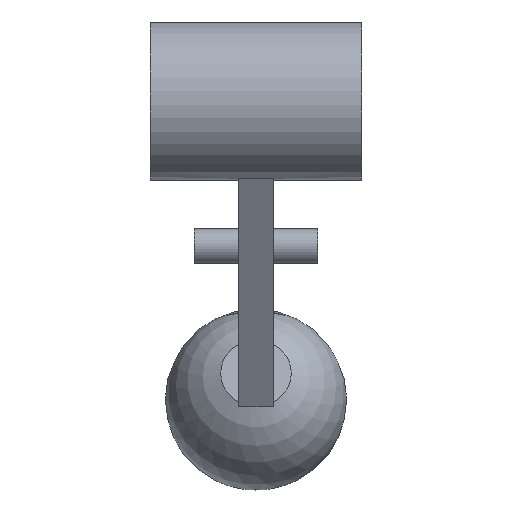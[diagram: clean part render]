
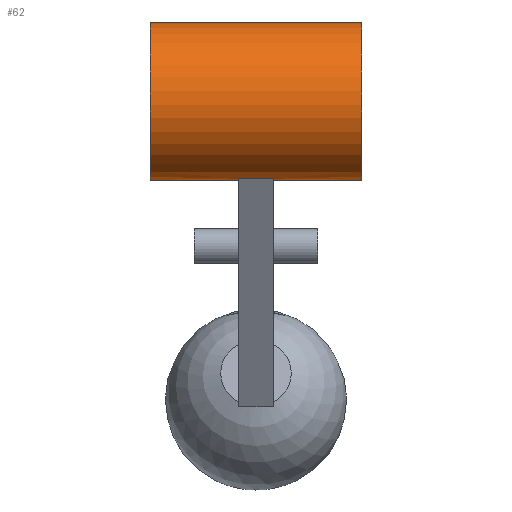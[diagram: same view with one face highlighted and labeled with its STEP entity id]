
A CAD part, front view. The second image highlights one B-rep face of the part: STEP entity #62.
In plain terms, the highlighted cylindrical face has radius 18 mm (diameter 36 mm), a full revolution.
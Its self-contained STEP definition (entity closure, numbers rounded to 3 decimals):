
#62=ADVANCED_FACE('',(#137,#139,#141),#143,.T.);
#137=FACE_OUTER_BOUND('',#138,.T.);
#138=EDGE_LOOP('',(#240));
#139=FACE_OUTER_BOUND('',#140,.T.);
#140=EDGE_LOOP('',(#241));
#141=FACE_BOUND('',#142,.T.);
#142=EDGE_LOOP('',(#242,#243,#244,#245));
#143=CYLINDRICAL_SURFACE('',#144,18.);
#144=AXIS2_PLACEMENT_3D('',#145,#146,#147);
#145=CARTESIAN_POINT('',(24.,-113.127,225.));
#146=DIRECTION('',(-1.,0.,0.));
#147=DIRECTION('',(0.,-0.737,-0.676));
#240=ORIENTED_EDGE('',*,*,#283,.T.);
#241=ORIENTED_EDGE('',*,*,#284,.F.);
#242=ORIENTED_EDGE('',*,*,#261,.F.);
#243=ORIENTED_EDGE('',*,*,#275,.F.);
#244=ORIENTED_EDGE('',*,*,#285,.F.);
#245=ORIENTED_EDGE('',*,*,#278,.F.);
#261=EDGE_CURVE('',#291,#293,#294,.T.);
#275=EDGE_CURVE('',#315,#291,#317,.T.);
#278=EDGE_CURVE('',#293,#321,#322,.F.);
#283=EDGE_CURVE('',#328,#328,#329,.T.);
#284=EDGE_CURVE('',#330,#330,#331,.T.);
#285=EDGE_CURVE('',#321,#315,#332,.F.);
#291=VERTEX_POINT('',#342);
#293=VERTEX_POINT('',#346);
#294=LINE('',#347,#348);
#315=VERTEX_POINT('',#398);
#317=CIRCLE('',#402,18.);
#321=VERTEX_POINT('',#414);
#322=CIRCLE('',#415,18.);
#328=VERTEX_POINT('',#435);
#329=CIRCLE('',#436,18.);
#330=VERTEX_POINT('',#440);
#331=CIRCLE('',#441,18.);
#332=LINE('',#445,#446);
#342=CARTESIAN_POINT('',(4.,-116.872,207.394));
#346=CARTESIAN_POINT('',(-4.,-116.872,207.394));
#347=CARTESIAN_POINT('',(4.,-116.872,207.394));
#348=VECTOR('',#349,1.);
#349=DIRECTION('',(-1.,0.,0.));
#398=CARTESIAN_POINT('',(4.,-107.983,242.249));
#402=AXIS2_PLACEMENT_3D('',#403,#404,#405);
#403=CARTESIAN_POINT('',(4.,-113.127,225.));
#404=DIRECTION('',(-1.,0.,0.));
#405=DIRECTION('',(0.,0.286,0.958));
#414=CARTESIAN_POINT('',(-4.,-107.983,242.249));
#415=AXIS2_PLACEMENT_3D('',#416,#417,#418);
#416=CARTESIAN_POINT('',(-4.,-113.127,225.));
#417=DIRECTION('',(-1.,0.,0.));
#418=DIRECTION('',(0.,0.286,0.958));
#435=CARTESIAN_POINT('',(24.,-126.398,212.839));
#436=AXIS2_PLACEMENT_3D('',#437,#438,#439);
#437=CARTESIAN_POINT('',(24.,-113.127,225.));
#438=DIRECTION('',(-1.,0.,0.));
#439=DIRECTION('',(0.,-0.737,-0.676));
#440=CARTESIAN_POINT('',(-24.,-126.398,212.839));
#441=AXIS2_PLACEMENT_3D('',#442,#443,#444);
#442=CARTESIAN_POINT('',(-24.,-113.127,225.));
#443=DIRECTION('',(-1.,0.,0.));
#444=DIRECTION('',(0.,-0.737,-0.676));
#445=CARTESIAN_POINT('',(4.,-107.983,242.249));
#446=VECTOR('',#447,1.);
#447=DIRECTION('',(-1.,0.,0.));
